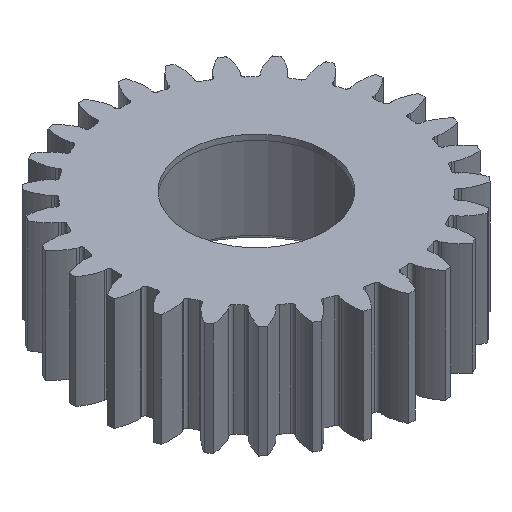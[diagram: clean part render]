
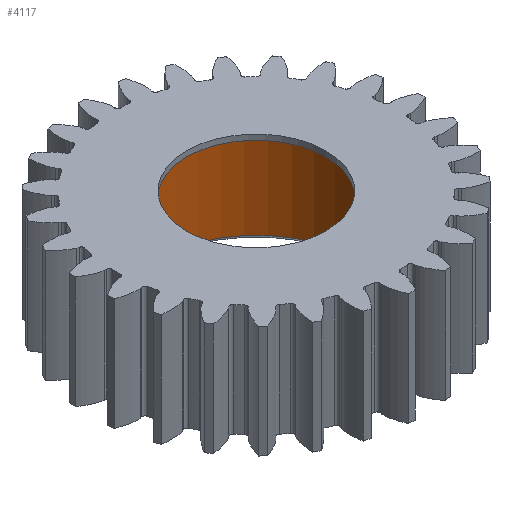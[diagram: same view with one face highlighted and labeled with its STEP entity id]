
A CAD part, isometric view. The second image highlights one B-rep face of the part: STEP entity #4117.
In plain terms, the highlighted cylindrical face has radius 7.207 mm (diameter 14.415 mm), a full revolution.
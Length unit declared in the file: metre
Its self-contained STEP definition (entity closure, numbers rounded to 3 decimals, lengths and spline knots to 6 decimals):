
#1015=ORIENTED_EDGE('',*,*,#2321,.T.);
#1016=ORIENTED_EDGE('',*,*,#2322,.F.);
#2321=EDGE_CURVE('',#2974,#2974,#3411,.F.);
#2322=EDGE_CURVE('',#2975,#2975,#3412,.F.);
#2974=VERTEX_POINT('',#5740);
#2975=VERTEX_POINT('',#5742);
#3411=CIRCLE('',#4353,0.007207);
#3412=CIRCLE('',#4354,0.007207);
#3578=EDGE_LOOP('',(#1015));
#3579=EDGE_LOOP('',(#1016));
#3806=FACE_BOUND('',#3578,.T.);
#3807=FACE_BOUND('',#3579,.T.);
#4034=CYLINDRICAL_SURFACE('',#4352,0.007207);
#4117=ADVANCED_FACE('',(#3806,#3807),#4034,.F.);
#4352=AXIS2_PLACEMENT_3D('',#5738,#4689,#4690);
#4353=AXIS2_PLACEMENT_3D('',#5739,#4691,#4692);
#4354=AXIS2_PLACEMENT_3D('',#5741,#4693,#4694);
#4689=DIRECTION('',(0.,0.,1.));
#4690=DIRECTION('',(1.,0.,0.));
#4691=DIRECTION('',(0.,0.,1.));
#4692=DIRECTION('',(1.,0.,0.));
#4693=DIRECTION('',(0.,0.,1.));
#4694=DIRECTION('',(1.,0.,0.));
#5738=CARTESIAN_POINT('',(-0.01524,0.,0.047304));
#5739=CARTESIAN_POINT('',(-0.01524,0.,0.047703));
#5740=CARTESIAN_POINT('',(-0.008033,0.,0.047703));
#5741=CARTESIAN_POINT('',(-0.01524,0.,0.055244));
#5742=CARTESIAN_POINT('',(-0.008033,0.,0.055244));
